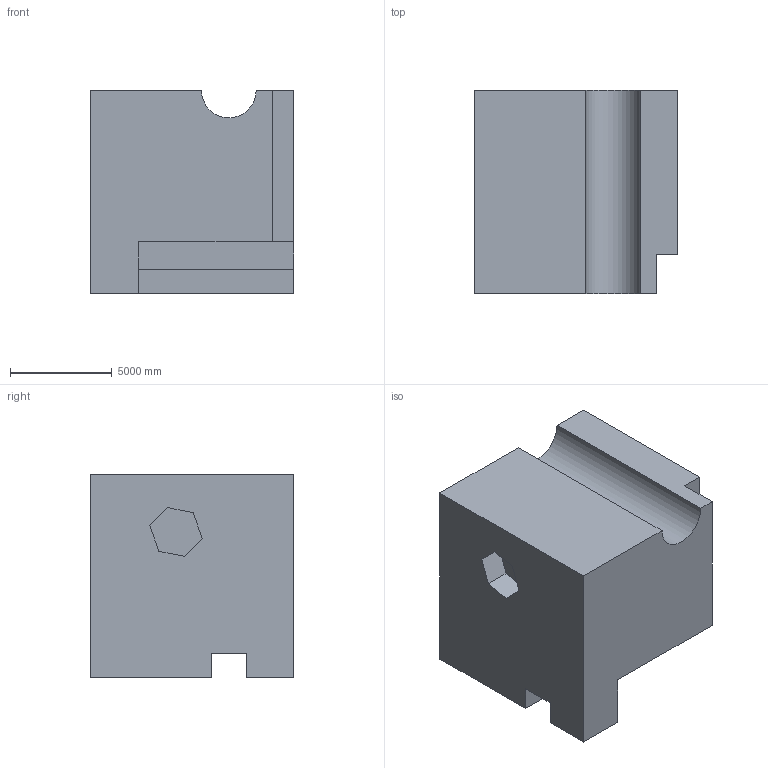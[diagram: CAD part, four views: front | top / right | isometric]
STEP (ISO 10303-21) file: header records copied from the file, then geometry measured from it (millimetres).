
FILE_DESCRIPTION (( 'STEP AP203' ), '1' );
FILE_NAME ('1480.STEP', '2022-08-18T14:43:53', ( 'user' ), ( '' ), 'SwSTEP 2.0', 'SolidWorks 2021', '' );
FILE_SCHEMA (( 'CONFIG_CONTROL_DESIGN' ));
Length unit declared in the file: centimetre
Products named in the file (1): 1480
Bounding box: 10000 x 10000 x 10000 mm (x, y, z)
Volume: 879920930529.9 mm3; surface area: 616840652 mm2
Topology: 1 solids, 1 shells, 24 faces, 63 edges, 42 vertices
Faces by surface type: plane 23, cylinder 1
Entity records: 806 total; most frequent: CARTESIAN_POINT 130, ORIENTED_EDGE 126, DIRECTION 115, EDGE_CURVE 63, VECTOR 61, LINE 61, VERTEX_POINT 42, AXIS2_PLACEMENT_3D 27
